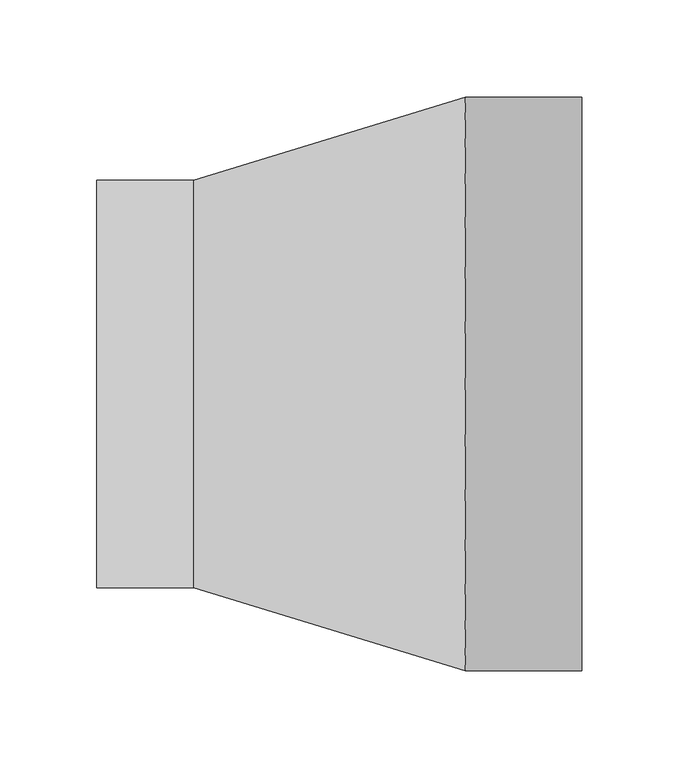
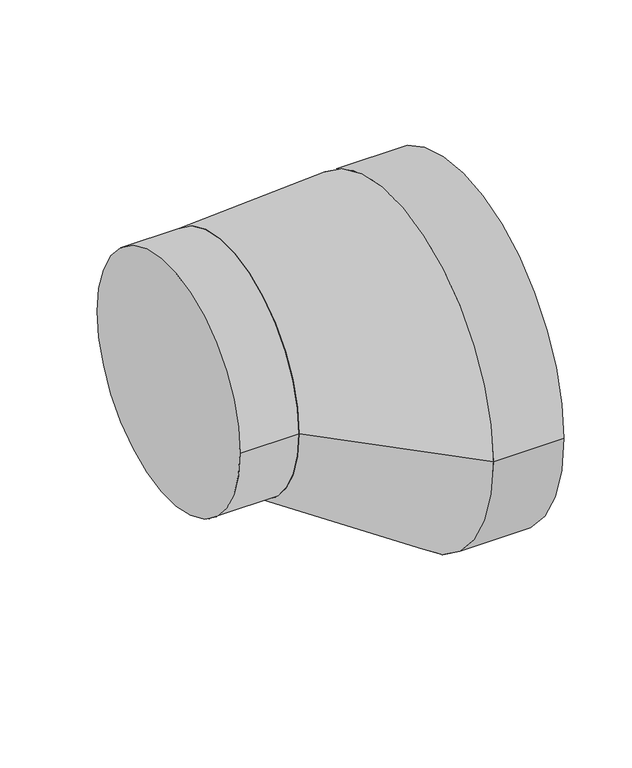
"""IFC4 building model written with IfcOpenShell, lengths in millimetres: duct fitting geometry, NLRS_57_DUF_UN_excentric EPP adapter_M&G : ø200 - ø200."""

from ifc_helpers import new_model, si_unit, point, frame, frame_2d, origin, origin_2d, place, context, project, spatial, circle_curve, trimmed, segment, composite_curve, outline, extrude, source, transform, mapped, element, save
from ifc_brep_helpers import plane_surface, spline_surface, advanced_brep


def duct_fitting_857f9277(model_context):
    return source(origin(), model_context, "Body", "SolidModel", [
        advanced_brep(
        [(65.0, -148.0, -48.0), (65.0, 148.0, -48.0), (-75.0, -105.0, 0.0), (-75.0, 105.0, 0.0)],
        [
            (0, 1, circle_curve(frame((65.0, 0.0, -48.0), z_axis=(1.0, 0.0, 0.0), x_axis=(0.0, 1.0, 0.0)), 148.0)),
            (1, 0, circle_curve(frame((65.0, 0.0, -48.0), z_axis=(1.0, 0.0, 0.0), x_axis=(0.0, 1.0, 0.0)), 148.0)),
            (2, 3, circle_curve(frame((-75.0, 0.0, 0.0), z_axis=(-1.0, 0.0, 0.0), x_axis=(0.0, 1.0, 0.0)), 105.0)),
            (3, 2, circle_curve(frame((-75.0, 0.0, 0.0), z_axis=(-1.0, 0.0, 0.0), x_axis=(0.0, 1.0, 0.0)), 105.0)),
            (3, 1),
            (0, 2),
        ],
        [
            plane_surface(frame((65.0, 0.0, -48.0), z_axis=(1.0, 0.0, 0.0), x_axis=(0.0, 0.0, -1.0))),
            plane_surface(frame((-75.0, 0.0, 0.0), z_axis=(-1.0, 0.0, 0.0), x_axis=(0.0, 0.0, -1.0))),
            spline_surface(2, 1, [[(-75.0, -105.0, 0.0), (65.0, -148.0, -48.0)], [(-75.0, -105.0, -105.0), (65.0, -148.0, -196.0)], [(-75.0, 0.0, -105.0), (65.0, 0.0, -196.0)], [(-75.0, 105.0, -105.0), (65.0, 148.0, -196.0)], [(-75.0, 105.0, 0.0), (65.0, 148.0, -48.0)]], [3, 2, 3], [2, 2], [0.0, 1.0, 2.0], [0.0, 1.0], weights=[[1.0, 1.0], [0.7071067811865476, 0.7071067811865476], [1.0, 1.0], [0.7071067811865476, 0.7071067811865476], [1.0, 1.0]]),
            spline_surface(2, 1, [[(-75.0, 105.0, 0.0), (65.0, 148.0, -48.0)], [(-75.0, 105.0, 105.0), (65.0, 148.0, 100.0)], [(-75.0, 0.0, 105.0), (65.0, 0.0, 100.0)], [(-75.0, -105.0, 105.0), (65.0, -148.0, 100.0)], [(-75.0, -105.0, 0.0), (65.0, -148.0, -48.0)]], [3, 2, 3], [2, 2], [0.0, 1.0, 2.0], [0.0, 1.0], weights=[[1.0, 1.0], [0.7071067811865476, 0.7071067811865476], [1.0, 1.0], [0.7071067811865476, 0.7071067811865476], [1.0, 1.0]]),
        ],
        [
            (0, [[1, 2]]),
            (1, [[3, 4]]),
            (2, [[-4, 5, -1, 6]]),
            (3, [[-3, -6, -2, -5]]),
        ],
    ),
        extrude(outline(composite_curve([segment(trimmed(circle_curve(origin_2d(), 105.0), [point((105.0, 0.0))], [point((-105.0, 0.0))], False, "CARTESIAN"), True, "CONTINUOUS"), segment(trimmed(circle_curve(origin_2d(), 105.0), [point((-105.0, 0.0))], [point((105.0, 0.0))], False, "CARTESIAN"), True, "CONTINUOUS")], self_intersect=False)), frame((-125.0, 0.0, 0.0), z_axis=(1.0, 0.0, 0.0), x_axis=(0.0, 1.0, 0.0)), (0.0, 0.0, 1.0), 50.0),
        extrude(outline(composite_curve([segment(trimmed(circle_curve(frame_2d((0.0, -48.0)), 148.0), [point((-148.0, -48.0))], [point((148.0, -48.0))], False, "CARTESIAN"), True, "CONTINUOUS"), segment(trimmed(circle_curve(frame_2d((0.0, -48.0)), 148.0), [point((148.0, -48.0))], [point((-148.0, -48.0))], False, "CARTESIAN"), True, "CONTINUOUS")], self_intersect=False), holes=[composite_curve([segment(trimmed(circle_curve(frame_2d((0.0, -48.0)), 121.5), [point((121.5, -48.0))], [point((-121.5, -48.0))], True, "CARTESIAN"), True, "CONTINUOUS"), segment(trimmed(circle_curve(frame_2d((0.0, -48.0)), 121.5), [point((-121.5, -48.0))], [point((121.5, -48.0))], True, "CARTESIAN"), True, "CONTINUOUS")], self_intersect=False)]), frame((65.0, 0.0, 0.0), z_axis=(1.0, 0.0, 0.0), x_axis=(0.0, 1.0, 0.0)), (0.0, 0.0, 1.0), 60.0),
    ])


if __name__ == "__main__":
    model = new_model("IFC4")
    model_context = context("Model", 3, world=origin())
    ifc_project = project(units=[si_unit("LENGTHUNIT", "METRE", prefix="MILLI")], contexts=[model_context])
    site = spatial("IfcSite", under=ifc_project)
    building = spatial("IfcBuilding", under=site)
    placement = place(None, origin())
    duct_fitting_shape = duct_fitting_857f9277(model_context)
    element("IfcDuctFitting", 1, ObjectType="NLRS_57_DUF_UN_excentric EPP adapter_M&G : ø200 - ø200", at=placement, inside=building, context=model_context, shape_type="MappedRepresentation", body=[
        mapped(duct_fitting_shape, transform((0.0, 0.0, 0.0), x_axis=(1.0, 0.0, 0.0), y_axis=(0.0, 1.0, 0.0), z_axis=(0.0, 0.0, 1.0))),
    ])
    save(model, "model.ifc")
